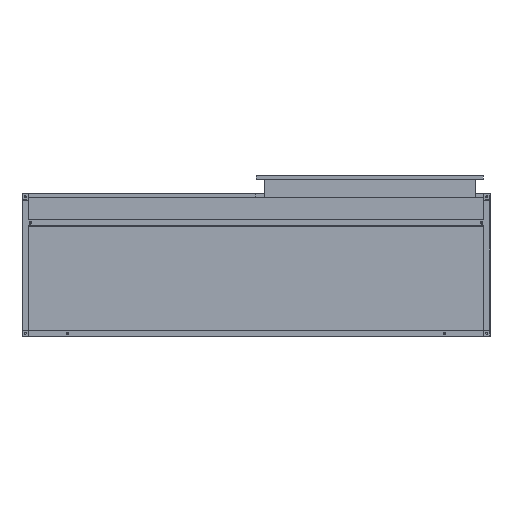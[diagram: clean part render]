
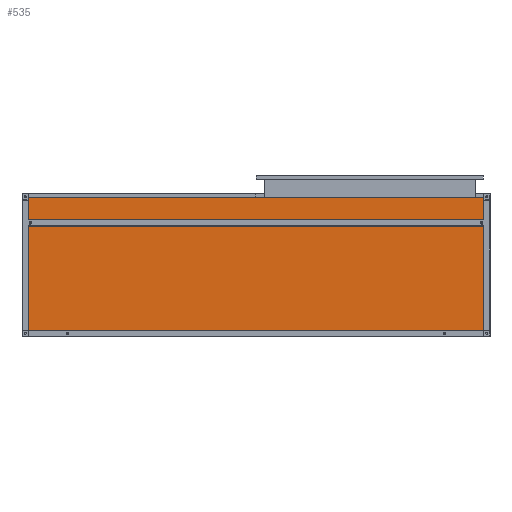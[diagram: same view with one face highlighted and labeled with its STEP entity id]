
A CAD part, front view. The second image highlights one B-rep face of the part: STEP entity #535.
In plain terms, the highlighted planar face has unit normal (0, -1, 0).
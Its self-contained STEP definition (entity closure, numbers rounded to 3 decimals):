
#134 = ORIENTED_EDGE ( 'NONE', *, *, #1555, .F. ) ;
#289 = DIRECTION ( 'NONE',  ( 0., 1., 0. ) ) ;
#307 = CARTESIAN_POINT ( 'NONE',  ( -875., -250., 535. ) ) ;
#535 = ADVANCED_FACE ( 'NONE', ( #1543 ), #6864, .F. ) ;
#807 = VECTOR ( 'NONE', #7037, 1000. ) ;
#1543 = FACE_OUTER_BOUND ( 'NONE', #4321, .T. ) ;
#1555 = EDGE_CURVE ( 'NONE', #7247, #5066, #1639, .T. ) ;
#1639 = LINE ( 'NONE', #5714, #3693 ) ;
#1789 = LINE ( 'NONE', #6030, #7423 ) ;
#2005 = VERTEX_POINT ( 'NONE', #307 ) ;
#2056 = CARTESIAN_POINT ( 'NONE',  ( 875., -250., 535. ) ) ;
#2099 = VECTOR ( 'NONE', #4939, 1000. ) ;
#2107 = ORIENTED_EDGE ( 'NONE', *, *, #5024, .F. ) ;
#2544 = LINE ( 'NONE', #2587, #2099 ) ;
#2587 = CARTESIAN_POINT ( 'NONE',  ( -875., -250., 0. ) ) ;
#2695 = DIRECTION ( 'NONE',  ( 0., 0., 1. ) ) ;
#3368 = CARTESIAN_POINT ( 'NONE',  ( 0., -250., 0. ) ) ;
#3441 = EDGE_CURVE ( 'NONE', #5089, #2005, #5224, .T. ) ;
#3693 = VECTOR ( 'NONE', #5636, 1000. ) ;
#4094 = CARTESIAN_POINT ( 'NONE',  ( -875., -250., 0. ) ) ;
#4321 = EDGE_LOOP ( 'NONE', ( #134, #2107, #4890, #6173 ) ) ;
#4890 = ORIENTED_EDGE ( 'NONE', *, *, #3441, .F. ) ;
#4939 = DIRECTION ( 'NONE',  ( -1., 0., 0. ) ) ;
#5024 = EDGE_CURVE ( 'NONE', #2005, #7247, #1789, .T. ) ;
#5066 = VERTEX_POINT ( 'NONE', #5325 ) ;
#5089 = VERTEX_POINT ( 'NONE', #6114 ) ;
#5224 = LINE ( 'NONE', #4094, #807 ) ;
#5325 = CARTESIAN_POINT ( 'NONE',  ( 875., -250., 0. ) ) ;
#5424 = AXIS2_PLACEMENT_3D ( 'NONE', #3368, #289, #2695 ) ;
#5636 = DIRECTION ( 'NONE',  ( 0., 0., -1. ) ) ;
#5714 = CARTESIAN_POINT ( 'NONE',  ( 875., -250., 0. ) ) ;
#5915 = DIRECTION ( 'NONE',  ( 1., 0., 0. ) ) ;
#6030 = CARTESIAN_POINT ( 'NONE',  ( -875., -250., 535. ) ) ;
#6114 = CARTESIAN_POINT ( 'NONE',  ( -875., -250., 0. ) ) ;
#6173 = ORIENTED_EDGE ( 'NONE', *, *, #6908, .F. ) ;
#6864 = PLANE ( 'NONE',  #5424 ) ;
#6908 = EDGE_CURVE ( 'NONE', #5066, #5089, #2544, .T. ) ;
#7037 = DIRECTION ( 'NONE',  ( 0., 0., 1. ) ) ;
#7247 = VERTEX_POINT ( 'NONE', #2056 ) ;
#7423 = VECTOR ( 'NONE', #5915, 1000. ) ;
